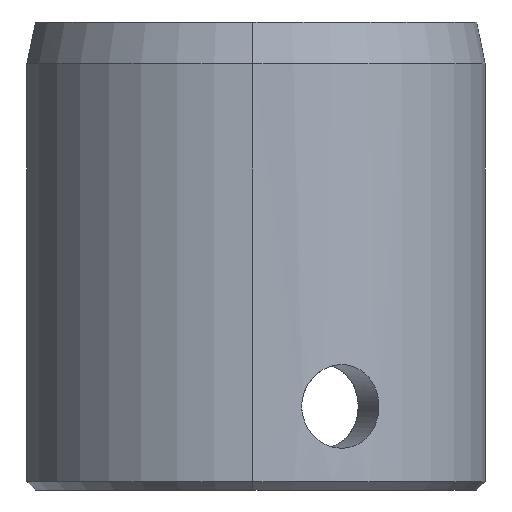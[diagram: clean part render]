
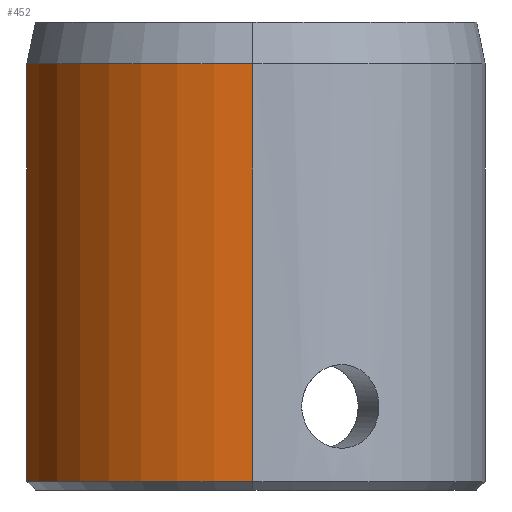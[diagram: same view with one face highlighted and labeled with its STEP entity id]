
A CAD part, left-side view. The second image highlights one B-rep face of the part: STEP entity #452.
In plain terms, the highlighted cylindrical face has radius 27.781 mm (diameter 55.562 mm), a partial arc.
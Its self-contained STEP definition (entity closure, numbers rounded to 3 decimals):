
#63 = EDGE_CURVE ( 'NONE', #603, #349, #138, .T. ) ;
#66 = ORIENTED_EDGE ( 'NONE', *, *, #63, .F. ) ;
#73 = CYLINDRICAL_SURFACE ( 'NONE', #719, 27.781 ) ;
#76 = EDGE_CURVE ( 'NONE', #603, #1112, #1052, .T. ) ;
#102 = DIRECTION ( 'NONE',  ( 0., 0., -1. ) ) ;
#138 = LINE ( 'NONE', #185, #575 ) ;
#152 = VECTOR ( 'NONE', #249, 1000. ) ;
#163 = ORIENTED_EDGE ( 'NONE', *, *, #76, .T. ) ;
#171 = CARTESIAN_POINT ( 'NONE',  ( -27.781, 0., -27. ) ) ;
#185 = CARTESIAN_POINT ( 'NONE',  ( -27.781, 0., 28. ) ) ;
#213 = CARTESIAN_POINT ( 'NONE',  ( -27.781, 0., 23. ) ) ;
#249 = DIRECTION ( 'NONE',  ( 0., 0., -1. ) ) ;
#298 = VERTEX_POINT ( 'NONE', #1065 ) ;
#299 = CIRCLE ( 'NONE', #596, 27.781 ) ;
#302 = EDGE_CURVE ( 'NONE', #1112, #298, #383, .T. ) ;
#320 = DIRECTION ( 'NONE',  ( -1., 0., 0. ) ) ;
#349 = VERTEX_POINT ( 'NONE', #171 ) ;
#350 = DIRECTION ( 'NONE',  ( 0., 0., 1. ) ) ;
#352 = CARTESIAN_POINT ( 'NONE',  ( -6.35, 27.046, 23. ) ) ;
#356 = CARTESIAN_POINT ( 'NONE',  ( 0., 0., 23. ) ) ;
#383 = LINE ( 'NONE', #992, #152 ) ;
#452 = ADVANCED_FACE ( 'NONE', ( #771 ), #73, .T. ) ;
#495 = EDGE_LOOP ( 'NONE', ( #66, #163, #697, #909 ) ) ;
#522 = EDGE_CURVE ( 'NONE', #298, #349, #299, .T. ) ;
#562 = AXIS2_PLACEMENT_3D ( 'NONE', #356, #802, #732 ) ;
#575 = VECTOR ( 'NONE', #102, 1000. ) ;
#596 = AXIS2_PLACEMENT_3D ( 'NONE', #889, #350, #980 ) ;
#603 = VERTEX_POINT ( 'NONE', #213 ) ;
#664 = DIRECTION ( 'NONE',  ( 0., 0., -1. ) ) ;
#697 = ORIENTED_EDGE ( 'NONE', *, *, #302, .T. ) ;
#719 = AXIS2_PLACEMENT_3D ( 'NONE', #1049, #664, #320 ) ;
#732 = DIRECTION ( 'NONE',  ( 1., 0., 0. ) ) ;
#771 = FACE_OUTER_BOUND ( 'NONE', #495, .T. ) ;
#802 = DIRECTION ( 'NONE',  ( 0., 0., -1. ) ) ;
#889 = CARTESIAN_POINT ( 'NONE',  ( 0., 0., -27. ) ) ;
#909 = ORIENTED_EDGE ( 'NONE', *, *, #522, .T. ) ;
#980 = DIRECTION ( 'NONE',  ( 1., 0., 0. ) ) ;
#992 = CARTESIAN_POINT ( 'NONE',  ( -6.35, 27.046, 28. ) ) ;
#1049 = CARTESIAN_POINT ( 'NONE',  ( 0., 0., 28. ) ) ;
#1052 = CIRCLE ( 'NONE', #562, 27.781 ) ;
#1065 = CARTESIAN_POINT ( 'NONE',  ( -6.35, 27.046, -27. ) ) ;
#1112 = VERTEX_POINT ( 'NONE', #352 ) ;
